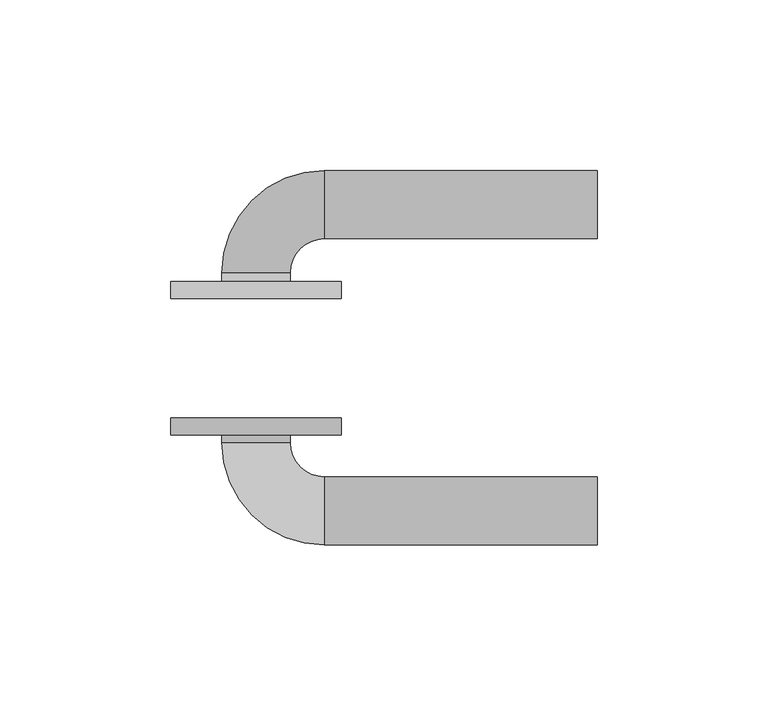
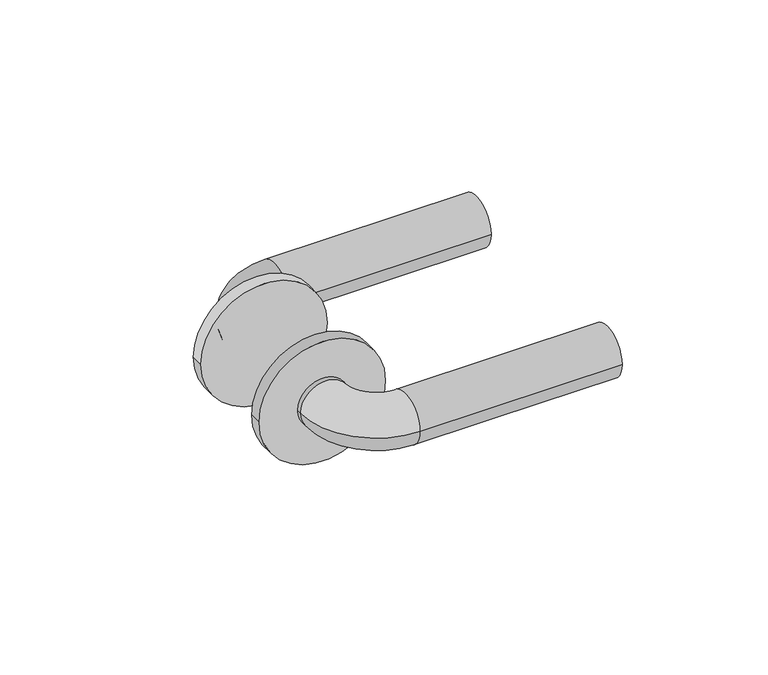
"""IFC4 building model written with IfcOpenShell, lengths in millimetres: proxy geometry, MAÇANETA CUSTOMIZADA : FECHADURA EXTERNA."""

from ifc_helpers import new_model, si_unit, point, frame, origin, origin_2d, place, context, project, spatial, circle_curve, ellipse_curve, trimmed, segment, composite_curve, outline, extrude, source, transform, mapped, element, save
from ifc_brep_helpers import plane_surface, cylinder_surface, revolved_surface, advanced_brep


def generic_models_21ba5421(model_context):
    return source(origin(), model_context, "Body", "SolidModel", [
        extrude(outline(composite_curve([segment(trimmed(circle_curve(origin_2d(), 25.0), [point((0.0, 25.0))], [point((0.0, -25.0))], False, "CARTESIAN"), True, "CONTINUOUS"), segment(trimmed(circle_curve(origin_2d(), 25.0), [point((0.0, -25.0))], [point((0.0, 25.0))], False, "CARTESIAN"), True, "CONTINUOUS")], self_intersect=False)), frame((0.0, 17.5, 0.0), z_axis=(0.0, 1.0, 0.0), x_axis=(0.0, 0.0, 1.0)), (0.0, 0.0, 1.0), 5.0),
        advanced_brep(
        [(-10.0, 22.5, 0.0), (10.0, 22.5, 0.0), (-10.0, 25.0, 0.0), (10.0, 25.0, 0.0), (20.0, 55.0, 0.0), (20.0, 35.0, 0.0), (100.0, 55.0, 0.0), (100.0, 35.0, 0.0)],
        [
            (0, 1, circle_curve(frame((0.0, 22.5, 0.0), z_axis=(0.0, -1.0, 0.0), x_axis=(1.0, 0.0, 0.0)), 10.0)),
            (1, 0, circle_curve(frame((0.0, 22.5, 0.0), z_axis=(0.0, -1.0, 0.0), x_axis=(1.0, 0.0, 0.0)), 10.0)),
            (0, 2),
            (2, 3, circle_curve(frame((0.0, 25.0, 0.0), z_axis=(0.0, -1.0, 0.0), x_axis=(1.0, 0.0, 0.0)), 10.0)),
            (3, 1),
            (3, 2, circle_curve(frame((0.0, 25.0, 0.0), z_axis=(0.0, -1.0, 0.0), x_axis=(1.0, 0.0, 0.0)), 10.0)),
            (4, 5, circle_curve(frame((20.0, 45.0, 0.0), z_axis=(-1.0, 0.0, 0.0), x_axis=(0.0, -1.0, 0.0)), 10.0)),
            (5, 3, circle_curve(frame((20.0, 25.0, 0.0), z_axis=(0.0, 0.0, 1.0), x_axis=(-1.0, 0.0, 0.0)), 10.0)),
            (2, 4, circle_curve(frame((20.0, 25.0, 0.0), z_axis=(0.0, 0.0, -1.0), x_axis=(-1.0, 0.0, 0.0)), 30.0)),
            (5, 4, circle_curve(frame((20.0, 45.0, 0.0), z_axis=(-1.0, 0.0, 0.0), x_axis=(0.0, -1.0, 0.0)), 10.0)),
            (6, 7, circle_curve(frame((100.0, 45.0, 0.0), z_axis=(1.0, 0.0, 0.0), x_axis=(0.0, -1.0, 0.0)), 10.0)),
            (7, 6, circle_curve(frame((100.0, 45.0, 0.0), z_axis=(1.0, 0.0, 0.0), x_axis=(0.0, -1.0, 0.0)), 10.0)),
            (4, 6),
            (7, 5),
        ],
        [
            plane_surface(frame((0.0, 22.5, 0.0), z_axis=(0.0, -1.0, 0.0), x_axis=(0.0, 0.0, 1.0))),
            cylinder_surface(frame((0.0, 22.5, 0.0), z_axis=(0.0, -1.0, 0.0), x_axis=(1.0, 0.0, 0.0)), 10.0),
            revolved_surface(trimmed(ellipse_curve(frame((0.0, 25.0, 0.0), z_axis=(0.0, 1.0, 0.0), x_axis=(1.0, 0.0, 0.0)), 10.0, 10.0), [point((10.0, 25.0, 0.0))], [point((-10.0, 25.0, 0.0))], True, "CARTESIAN"), (20.0, 25.0, 0.0), (0.0, 0.0, 1.0)),
            revolved_surface(trimmed(ellipse_curve(frame((0.0, 25.0, 0.0), z_axis=(0.0, 1.0, 0.0), x_axis=(1.0, 0.0, 0.0)), 10.0, 10.0), [point((-10.0, 25.0, 0.0))], [point((10.0, 25.0, 0.0))], True, "CARTESIAN"), (20.0, 25.0, 0.0), (0.0, 0.0, 1.0)),
            plane_surface(frame((100.0, 45.0, 0.0), z_axis=(1.0, 0.0, 0.0), x_axis=(0.0, 0.0, 1.0))),
            cylinder_surface(frame((20.0, 45.0, 0.0), z_axis=(-1.0, 0.0, 0.0), x_axis=(0.0, -1.0, 0.0)), 10.0),
        ],
        [
            (0, [[1, 2]]),
            (1, [[3, 4, 5, -1]]),
            (1, [[-5, 6, -3, -2]]),
            (2, [[7, 8, -4, 9]]),
            (3, [[10, -9, -6, -8]]),
            (4, [[11, 12]]),
            (5, [[13, -12, 14, -7]]),
            (5, [[-14, -11, -13, -10]]),
        ],
    ),
        extrude(outline(composite_curve([segment(trimmed(circle_curve(origin_2d(), 25.0), [point((0.0, -25.0))], [point((0.0, 25.0))], False, "CARTESIAN"), True, "CONTINUOUS"), segment(trimmed(circle_curve(origin_2d(), 25.0), [point((0.0, 25.0))], [point((0.0, -25.0))], False, "CARTESIAN"), True, "CONTINUOUS")], self_intersect=False)), frame((0.0, -22.5, 0.0), z_axis=(0.0, 1.0, 0.0), x_axis=(0.0, 0.0, 1.0)), (0.0, 0.0, 1.0), 5.0),
        advanced_brep(
        [(10.0, -22.5, 0.0), (-10.0, -22.5, 0.0), (-10.0, -24.77662, 0.0), (10.0, -24.77662, 0.0), (20.0, -54.77662, 0.0), (20.0, -34.77662, 0.0), (100.0, -34.77662, 0.0), (100.0, -54.77662, 0.0)],
        [
            (0, 1, circle_curve(frame((0.0, -22.5, 0.0), z_axis=(0.0, 1.0, 0.0), x_axis=(-1.0, 0.0, 0.0)), 10.0)),
            (1, 0, circle_curve(frame((0.0, -22.5, 0.0), z_axis=(0.0, 1.0, 0.0), x_axis=(-1.0, 0.0, 0.0)), 10.0)),
            (1, 2),
            (2, 3, circle_curve(frame((0.0, -24.77662, 0.0), z_axis=(0.0, 1.0, 0.0), x_axis=(-1.0, 0.0, 0.0)), 10.0)),
            (3, 0),
            (3, 2, circle_curve(frame((0.0, -24.77662, 0.0), z_axis=(0.0, 1.0, 0.0), x_axis=(-1.0, 0.0, 0.0)), 10.0)),
            (4, 5, circle_curve(frame((20.0, -44.77662, 0.0), z_axis=(-1.0, 0.0, 0.0), x_axis=(0.0, -1.0, 0.0)), 10.0)),
            (5, 3, circle_curve(frame((20.0, -24.77662, 0.0), z_axis=(0.0, 0.0, -1.0), x_axis=(-1.0, 0.0, 0.0)), 10.0)),
            (2, 4, circle_curve(frame((20.0, -24.77662, 0.0), z_axis=(0.0, 0.0, 1.0), x_axis=(-1.0, 0.0, 0.0)), 30.0)),
            (5, 4, circle_curve(frame((20.0, -44.77662, 0.0), z_axis=(-1.0, 0.0, 0.0), x_axis=(0.0, -1.0, 0.0)), 10.0)),
            (6, 7, circle_curve(frame((100.0, -44.77662, 0.0), z_axis=(1.0, 0.0, 0.0), x_axis=(0.0, -1.0, 0.0)), 10.0)),
            (7, 6, circle_curve(frame((100.0, -44.77662, 0.0), z_axis=(1.0, 0.0, 0.0), x_axis=(0.0, -1.0, 0.0)), 10.0)),
            (4, 7),
            (6, 5),
        ],
        [
            plane_surface(frame((0.0, -22.5, 0.0), z_axis=(0.0, 1.0, 0.0), x_axis=(0.0, 0.0, 1.0))),
            cylinder_surface(frame((0.0, -22.5, 0.0), z_axis=(0.0, 1.0, 0.0), x_axis=(-1.0, 0.0, 0.0)), 10.0),
            revolved_surface(trimmed(ellipse_curve(frame((0.0, -24.77662, 0.0), z_axis=(0.0, -1.0, 0.0), x_axis=(-1.0, 0.0, 0.0)), 10.0, 10.0), [point((10.0, -24.77662, 0.0))], [point((-10.0, -24.77662, 0.0))], True, "CARTESIAN"), (20.0, -24.77662, 0.0), (0.0, 0.0, -1.0)),
            revolved_surface(trimmed(ellipse_curve(frame((0.0, -24.77662, 0.0), z_axis=(0.0, -1.0, 0.0), x_axis=(-1.0, 0.0, 0.0)), 10.0, 10.0), [point((-10.0, -24.77662, 0.0))], [point((10.0, -24.77662, 0.0))], True, "CARTESIAN"), (20.0, -24.77662, 0.0), (0.0, 0.0, -1.0)),
            plane_surface(frame((100.0, -44.77662, 0.0), z_axis=(1.0, 0.0, 0.0), x_axis=(0.0, 0.0, 1.0))),
            cylinder_surface(frame((20.0, -44.77662, 0.0), z_axis=(-1.0, 0.0, 0.0), x_axis=(0.0, -1.0, 0.0)), 10.0),
        ],
        [
            (0, [[1, 2]]),
            (1, [[3, 4, 5, -2]]),
            (1, [[-5, 6, -3, -1]]),
            (2, [[7, 8, -4, 9]]),
            (3, [[10, -9, -6, -8]]),
            (4, [[11, 12]]),
            (5, [[13, -11, 14, -7]]),
            (5, [[-14, -12, -13, -10]]),
        ],
    ),
    ])


if __name__ == "__main__":
    model = new_model("IFC4")
    model_context = context("Model", 3, world=origin())
    ifc_project = project(units=[si_unit("LENGTHUNIT", "METRE", prefix="MILLI")], contexts=[model_context])
    site = spatial("IfcSite", under=ifc_project)
    building = spatial("IfcBuilding", under=site)
    placement = place(None, origin())
    generic_models_shape = generic_models_21ba5421(model_context)
    element("IfcBuildingElementProxy", 1, Name="MAÇANETA CUSTOMIZADA : FECHADURA EXTERNA", ObjectType="MAÇANETA CUSTOMIZADA : FECHADURA EXTERNA", at=placement, inside=building, context=model_context, shape_type="MappedRepresentation", body=[
        mapped(generic_models_shape, transform((0.0, 0.0, 0.0), x_axis=(1.0, 0.0, 0.0), y_axis=(0.0, 1.0, 0.0), z_axis=(0.0, 0.0, 1.0))),
    ])
    save(model, "model.ifc")
